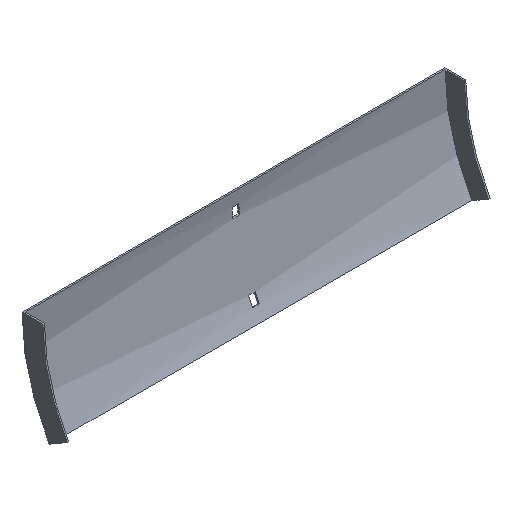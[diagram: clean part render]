
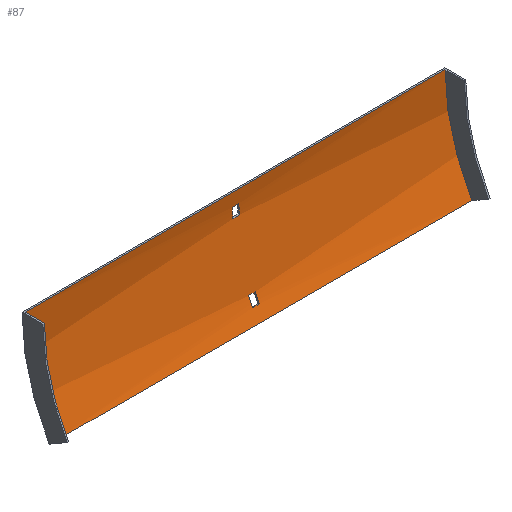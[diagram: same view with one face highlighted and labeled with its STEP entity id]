
A CAD part, isometric view. The second image highlights one B-rep face of the part: STEP entity #87.
In plain terms, the highlighted cylindrical face has radius 192.5 mm (diameter 385 mm), a partial arc.
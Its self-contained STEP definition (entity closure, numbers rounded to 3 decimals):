
#2 = AXIS2_PLACEMENT_3D ( 'NONE', #469, #10, #384 ) ;
#6 = FACE_BOUND ( 'NONE', #45, .T. ) ;
#8 = VERTEX_POINT ( 'NONE', #51 ) ;
#10 = DIRECTION ( 'NONE',  ( 1., 0., 0. ) ) ;
#12 = DIRECTION ( 'NONE',  ( 0., 0., 1. ) ) ;
#17 = AXIS2_PLACEMENT_3D ( 'NONE', #584, #305, #449 ) ;
#18 = CARTESIAN_POINT ( 'NONE',  ( 3.25, -1.874, -12. ) ) ;
#19 = LINE ( 'NONE', #213, #232 ) ;
#29 = CARTESIAN_POINT ( 'NONE',  ( 3.25, -2.649, -21. ) ) ;
#31 = ORIENTED_EDGE ( 'NONE', *, *, #214, .F. ) ;
#35 = VECTOR ( 'NONE', #242, 1000. ) ;
#36 = DIRECTION ( 'NONE',  ( 1., 0., 0. ) ) ;
#42 = CARTESIAN_POINT ( 'NONE',  ( 203.5, -17.785, -77.489 ) ) ;
#43 = FACE_OUTER_BOUND ( 'NONE', #335, .T. ) ;
#45 = EDGE_LOOP ( 'NONE', ( #133, #231, #63, #129 ) ) ;
#51 = CARTESIAN_POINT ( 'NONE',  ( -202., -1.5, 0. ) ) ;
#53 = CYLINDRICAL_SURFACE ( 'NONE', #191, 192.5 ) ;
#60 = ORIENTED_EDGE ( 'NONE', *, *, #149, .F. ) ;
#63 = ORIENTED_EDGE ( 'NONE', *, *, #372, .T. ) ;
#72 = CARTESIAN_POINT ( 'NONE',  ( 202., -1.5, 0. ) ) ;
#87 = ADVANCED_FACE ( 'NONE', ( #454, #43, #6 ), #53, .F. ) ;
#94 = ORIENTED_EDGE ( 'NONE', *, *, #509, .F. ) ;
#102 = LINE ( 'NONE', #243, #336 ) ;
#103 = AXIS2_PLACEMENT_3D ( 'NONE', #348, #333, #12 ) ;
#104 = VECTOR ( 'NONE', #438, 1000. ) ;
#111 = DIRECTION ( 'NONE',  ( 1., 0., 0. ) ) ;
#118 = LINE ( 'NONE', #304, #104 ) ;
#121 = EDGE_CURVE ( 'NONE', #327, #143, #376, .T. ) ;
#123 = VERTEX_POINT ( 'NONE', #198 ) ;
#125 = AXIS2_PLACEMENT_3D ( 'NONE', #516, #111, #381 ) ;
#129 = ORIENTED_EDGE ( 'NONE', *, *, #121, .T. ) ;
#133 = ORIENTED_EDGE ( 'NONE', *, *, #485, .T. ) ;
#134 = DIRECTION ( 'NONE',  ( 1., 0., 0. ) ) ;
#139 = EDGE_CURVE ( 'NONE', #319, #8, #571, .T. ) ;
#143 = VERTEX_POINT ( 'NONE', #480 ) ;
#149 = EDGE_CURVE ( 'NONE', #291, #200, #600, .T. ) ;
#152 = CARTESIAN_POINT ( 'NONE',  ( -3.25, -194., 0. ) ) ;
#157 = DIRECTION ( 'NONE',  ( -1., 0., 0. ) ) ;
#164 = EDGE_CURVE ( 'NONE', #200, #545, #102, .T. ) ;
#165 = CARTESIAN_POINT ( 'NONE',  ( 202., -1.5, 0. ) ) ;
#184 = AXIS2_PLACEMENT_3D ( 'NONE', #152, #288, #254 ) ;
#191 = AXIS2_PLACEMENT_3D ( 'NONE', #527, #426, #203 ) ;
#198 = CARTESIAN_POINT ( 'NONE',  ( 202., -27.29, -96.25 ) ) ;
#200 = VERTEX_POINT ( 'NONE', #18 ) ;
#203 = DIRECTION ( 'NONE',  ( 0., 0., 1. ) ) ;
#205 = DIRECTION ( 'NONE',  ( -1., 0., 0. ) ) ;
#213 = CARTESIAN_POINT ( 'NONE',  ( 203.5, -21.614, -85.671 ) ) ;
#214 = EDGE_CURVE ( 'NONE', #545, #405, #271, .T. ) ;
#230 = EDGE_CURVE ( 'NONE', #315, #283, #518, .T. ) ;
#231 = ORIENTED_EDGE ( 'NONE', *, *, #230, .T. ) ;
#232 = VECTOR ( 'NONE', #205, 1000. ) ;
#242 = DIRECTION ( 'NONE',  ( 1., 0., 0. ) ) ;
#243 = CARTESIAN_POINT ( 'NONE',  ( 203.5, -1.874, -12. ) ) ;
#253 = EDGE_LOOP ( 'NONE', ( #31, #435, #60, #94 ) ) ;
#254 = DIRECTION ( 'NONE',  ( 0., 0., 1. ) ) ;
#271 = CIRCLE ( 'NONE', #184, 192.5 ) ;
#283 = VERTEX_POINT ( 'NONE', #546 ) ;
#288 = DIRECTION ( 'NONE',  ( -1., 0., 0. ) ) ;
#291 = VERTEX_POINT ( 'NONE', #29 ) ;
#295 = DIRECTION ( 'NONE',  ( -1., 0., 0. ) ) ;
#299 = AXIS2_PLACEMENT_3D ( 'NONE', #448, #36, #363 ) ;
#304 = CARTESIAN_POINT ( 'NONE',  ( 202., -27.29, -96.25 ) ) ;
#305 = DIRECTION ( 'NONE',  ( 1., 0., 0. ) ) ;
#309 = CARTESIAN_POINT ( 'NONE',  ( -3.25, -1.874, -12. ) ) ;
#315 = VERTEX_POINT ( 'NONE', #404 ) ;
#317 = CARTESIAN_POINT ( 'NONE',  ( 3.25, -17.785, -77.489 ) ) ;
#319 = VERTEX_POINT ( 'NONE', #72 ) ;
#320 = LINE ( 'NONE', #42, #579 ) ;
#327 = VERTEX_POINT ( 'NONE', #317 ) ;
#333 = DIRECTION ( 'NONE',  ( -1., 0., 0. ) ) ;
#335 = EDGE_LOOP ( 'NONE', ( #510, #557, #523, #362 ) ) ;
#336 = VECTOR ( 'NONE', #295, 1000. ) ;
#342 = LINE ( 'NONE', #382, #35 ) ;
#344 = EDGE_CURVE ( 'NONE', #492, #8, #357, .T. ) ;
#348 = CARTESIAN_POINT ( 'NONE',  ( 3.25, -194., 0. ) ) ;
#353 = EDGE_CURVE ( 'NONE', #123, #492, #118, .T. ) ;
#357 = CIRCLE ( 'NONE', #299, 192.5 ) ;
#362 = ORIENTED_EDGE ( 'NONE', *, *, #139, .T. ) ;
#363 = DIRECTION ( 'NONE',  ( 0., 0., 1. ) ) ;
#372 = EDGE_CURVE ( 'NONE', #283, #327, #320, .T. ) ;
#376 = CIRCLE ( 'NONE', #103, 192.5 ) ;
#381 = DIRECTION ( 'NONE',  ( 0., 0., -1. ) ) ;
#382 = CARTESIAN_POINT ( 'NONE',  ( 203.5, -2.649, -21. ) ) ;
#384 = DIRECTION ( 'NONE',  ( 0., 0., -1. ) ) ;
#389 = CARTESIAN_POINT ( 'NONE',  ( -202., -27.29, -96.25 ) ) ;
#404 = CARTESIAN_POINT ( 'NONE',  ( -3.25, -21.614, -85.671 ) ) ;
#405 = VERTEX_POINT ( 'NONE', #549 ) ;
#426 = DIRECTION ( 'NONE',  ( -1., 0., 0. ) ) ;
#432 = CIRCLE ( 'NONE', #17, 192.5 ) ;
#435 = ORIENTED_EDGE ( 'NONE', *, *, #164, .F. ) ;
#438 = DIRECTION ( 'NONE',  ( -1., 0., 0. ) ) ;
#439 = VECTOR ( 'NONE', #157, 1000. ) ;
#448 = CARTESIAN_POINT ( 'NONE',  ( -202., -194., 0. ) ) ;
#449 = DIRECTION ( 'NONE',  ( 0., 0., 1. ) ) ;
#454 = FACE_BOUND ( 'NONE', #253, .T. ) ;
#469 = CARTESIAN_POINT ( 'NONE',  ( -3.25, -194., 0. ) ) ;
#480 = CARTESIAN_POINT ( 'NONE',  ( 3.25, -21.614, -85.671 ) ) ;
#485 = EDGE_CURVE ( 'NONE', #143, #315, #19, .T. ) ;
#492 = VERTEX_POINT ( 'NONE', #389 ) ;
#509 = EDGE_CURVE ( 'NONE', #405, #291, #342, .T. ) ;
#510 = ORIENTED_EDGE ( 'NONE', *, *, #344, .F. ) ;
#516 = CARTESIAN_POINT ( 'NONE',  ( 3.25, -194., 0. ) ) ;
#518 = CIRCLE ( 'NONE', #2, 192.5 ) ;
#523 = ORIENTED_EDGE ( 'NONE', *, *, #594, .T. ) ;
#527 = CARTESIAN_POINT ( 'NONE',  ( 203.5, -194., 0. ) ) ;
#545 = VERTEX_POINT ( 'NONE', #309 ) ;
#546 = CARTESIAN_POINT ( 'NONE',  ( -3.25, -17.785, -77.489 ) ) ;
#549 = CARTESIAN_POINT ( 'NONE',  ( -3.25, -2.649, -21. ) ) ;
#557 = ORIENTED_EDGE ( 'NONE', *, *, #353, .F. ) ;
#571 = LINE ( 'NONE', #165, #439 ) ;
#579 = VECTOR ( 'NONE', #134, 1000. ) ;
#584 = CARTESIAN_POINT ( 'NONE',  ( 202., -194., 0. ) ) ;
#594 = EDGE_CURVE ( 'NONE', #123, #319, #432, .T. ) ;
#600 = CIRCLE ( 'NONE', #125, 192.5 ) ;
